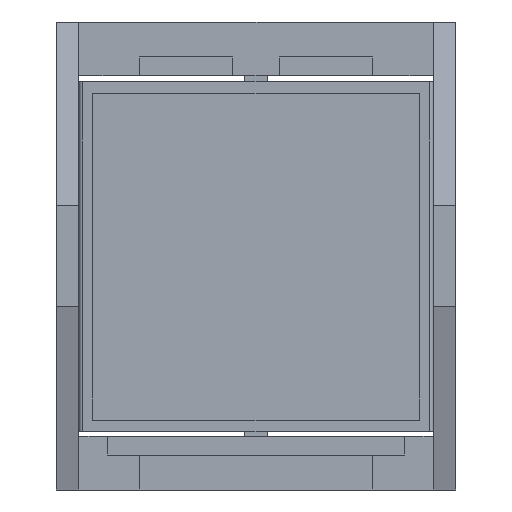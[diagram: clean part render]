
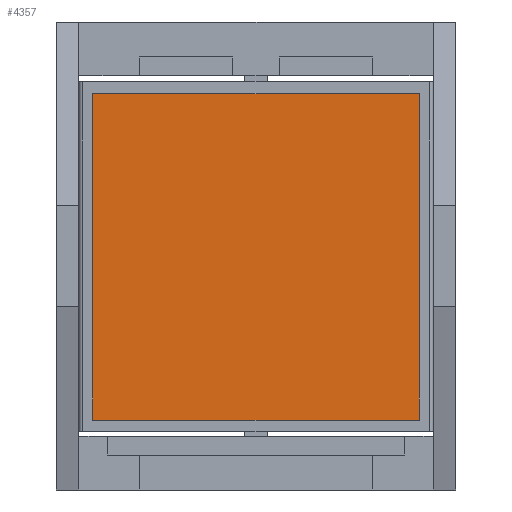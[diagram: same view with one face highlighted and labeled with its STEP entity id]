
A CAD part, front view. The second image highlights one B-rep face of the part: STEP entity #4357.
In plain terms, the highlighted planar face has unit normal (0, -1, 0).
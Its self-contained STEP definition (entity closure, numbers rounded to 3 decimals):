
#43 = PLANE ( 'NONE',  #1080 ) ;
#74 = CARTESIAN_POINT ( 'NONE',  ( -11.919, -3.447, 13.523 ) ) ;
#150 = CARTESIAN_POINT ( 'NONE',  ( 9.081, -3.447, -7.477 ) ) ;
#273 = CARTESIAN_POINT ( 'NONE',  ( -11.919, -3.447, -7.477 ) ) ;
#514 = ORIENTED_EDGE ( 'NONE', *, *, #5121, .F. ) ;
#645 = LINE ( 'NONE', #74, #7121 ) ;
#652 = DIRECTION ( 'NONE',  ( 0., 0., 1. ) ) ;
#694 = DIRECTION ( 'NONE',  ( 0., 1., 0. ) ) ;
#913 = ORIENTED_EDGE ( 'NONE', *, *, #2925, .F. ) ;
#973 = VERTEX_POINT ( 'NONE', #4053 ) ;
#1080 = AXIS2_PLACEMENT_3D ( 'NONE', #5743, #694, #652 ) ;
#2445 = DIRECTION ( 'NONE',  ( 0., 0., -1. ) ) ;
#2594 = CARTESIAN_POINT ( 'NONE',  ( -11.919, -3.447, -7.477 ) ) ;
#2894 = FACE_OUTER_BOUND ( 'NONE', #2944, .T. ) ;
#2925 = EDGE_CURVE ( 'NONE', #5786, #5008, #3171, .T. ) ;
#2944 = EDGE_LOOP ( 'NONE', ( #4365, #913, #514, #5484 ) ) ;
#3171 = LINE ( 'NONE', #273, #5531 ) ;
#3539 = DIRECTION ( 'NONE',  ( 0., 0., 1. ) ) ;
#3843 = VECTOR ( 'NONE', #3539, 1000. ) ;
#4053 = CARTESIAN_POINT ( 'NONE',  ( 9.081, -3.447, 13.523 ) ) ;
#4073 = DIRECTION ( 'NONE',  ( 1., 0., 0. ) ) ;
#4233 = VERTEX_POINT ( 'NONE', #7114 ) ;
#4300 = DIRECTION ( 'NONE',  ( -1., 0., 0. ) ) ;
#4357 = ADVANCED_FACE ( 'NONE', ( #2894 ), #43, .F. ) ;
#4365 = ORIENTED_EDGE ( 'NONE', *, *, #6400, .F. ) ;
#5008 = VERTEX_POINT ( 'NONE', #2594 ) ;
#5121 = EDGE_CURVE ( 'NONE', #973, #5786, #7008, .T. ) ;
#5367 = LINE ( 'NONE', #6319, #3843 ) ;
#5407 = VECTOR ( 'NONE', #2445, 1000. ) ;
#5484 = ORIENTED_EDGE ( 'NONE', *, *, #6273, .F. ) ;
#5531 = VECTOR ( 'NONE', #4300, 1000. ) ;
#5743 = CARTESIAN_POINT ( 'NONE',  ( -11.919, -3.447, 13.523 ) ) ;
#5786 = VERTEX_POINT ( 'NONE', #150 ) ;
#6273 = EDGE_CURVE ( 'NONE', #4233, #973, #645, .T. ) ;
#6319 = CARTESIAN_POINT ( 'NONE',  ( -11.919, -3.447, -7.477 ) ) ;
#6335 = CARTESIAN_POINT ( 'NONE',  ( 9.081, -3.447, -7.477 ) ) ;
#6400 = EDGE_CURVE ( 'NONE', #5008, #4233, #5367, .T. ) ;
#7008 = LINE ( 'NONE', #6335, #5407 ) ;
#7114 = CARTESIAN_POINT ( 'NONE',  ( -11.919, -3.447, 13.523 ) ) ;
#7121 = VECTOR ( 'NONE', #4073, 1000. ) ;
